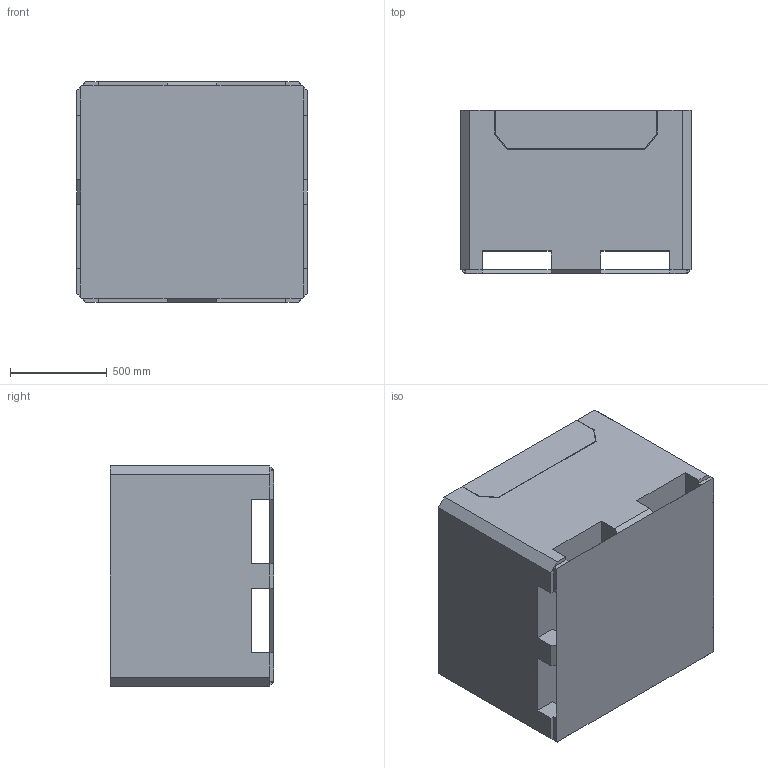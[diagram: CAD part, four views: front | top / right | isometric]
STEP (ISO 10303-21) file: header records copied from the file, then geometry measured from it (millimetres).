
FILE_DESCRIPTION (( 'STEP AP214' ), '1' );
FILE_NAME ('4547-33 Block Model.STEP', '2013-06-03T14:50:41', ( 'Bryant Conder' ), ( '' ), 'SwSTEP 2.0', 'SolidWorks 2013', '' );
FILE_SCHEMA (( 'AUTOMOTIVE_DESIGN' ));
Length unit declared in the file: inch
Products named in the file (1): 4547-33 Block Model
Bounding box: 1193.8 x 845.82 x 1143 mm (x, y, z)
Volume: 213343887.9 mm3; surface area: 12001345.7 mm2
Topology: 1 solids, 1 shells, 89 faces, 284 edges, 184 vertices
Faces by surface type: plane 89
Entity records: 3118 total; most frequent: ORIENTED_EDGE 568, CARTESIAN_POINT 558, DIRECTION 464, EDGE_CURVE 284, VECTOR 284, LINE 284, VERTEX_POINT 184, EDGE_LOOP 90
